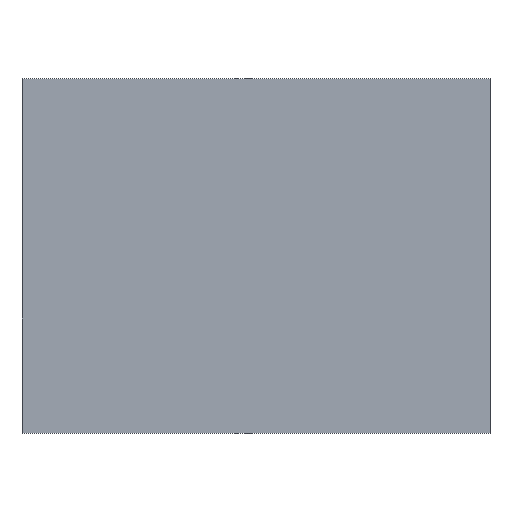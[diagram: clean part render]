
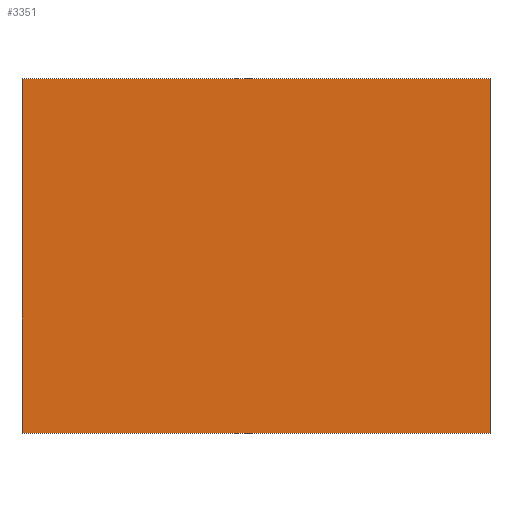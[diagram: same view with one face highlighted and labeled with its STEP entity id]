
A CAD part, top view. The second image highlights one B-rep face of the part: STEP entity #3351.
In plain terms, the highlighted planar face has unit normal (0, 0, 1).
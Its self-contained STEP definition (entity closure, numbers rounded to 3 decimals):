
#3215=CARTESIAN_POINT('Vertex',(103.,78.,26.)) ;
#3229=CARTESIAN_POINT('Vertex',(-103.,78.,26.)) ;
#3232=CARTESIAN_POINT('Line Origine',(0.,78.,26.)) ;
#3260=CARTESIAN_POINT('Vertex',(-103.,-78.,26.)) ;
#3263=CARTESIAN_POINT('Line Origine',(-103.,0.,26.)) ;
#3291=CARTESIAN_POINT('Vertex',(103.,-78.,26.)) ;
#3294=CARTESIAN_POINT('Line Origine',(0.,-78.,26.)) ;
#3316=CARTESIAN_POINT('Line Origine',(103.,0.,26.)) ;
#3340=CARTESIAN_POINT('Axis2P3D Location',(0.,0.,26.)) ;
#3233=DIRECTION('Vector Direction',(1.,0.,0.)) ;
#3264=DIRECTION('Vector Direction',(0.,1.,0.)) ;
#3295=DIRECTION('Vector Direction',(-1.,0.,0.)) ;
#3317=DIRECTION('Vector Direction',(0.,-1.,0.)) ;
#3341=DIRECTION('Axis2P3D Direction',(0.,0.,1.)) ;
#3342=DIRECTION('Axis2P3D XDirection',(1.,0.,0.)) ;
#3343=AXIS2_PLACEMENT_3D('Plane Axis2P3D',#3340,#3341,#3342) ;
#3346=ORIENTED_EDGE('',*,*,#3236,.T.) ;
#3347=ORIENTED_EDGE('',*,*,#3267,.T.) ;
#3348=ORIENTED_EDGE('',*,*,#3298,.T.) ;
#3349=ORIENTED_EDGE('',*,*,#3320,.T.) ;
#3234=VECTOR('Line Direction',#3233,1.) ;
#3265=VECTOR('Line Direction',#3264,1.) ;
#3296=VECTOR('Line Direction',#3295,1.) ;
#3318=VECTOR('Line Direction',#3317,1.) ;
#3351=ADVANCED_FACE('cavity',(#3350),#3344,.T.) ;
#3236=EDGE_CURVE('',#3216,#3230,#3235,.F.) ;
#3267=EDGE_CURVE('',#3230,#3261,#3266,.F.) ;
#3298=EDGE_CURVE('',#3261,#3292,#3297,.F.) ;
#3320=EDGE_CURVE('',#3292,#3216,#3319,.F.) ;
#3345=EDGE_LOOP('',(#3346,#3347,#3348,#3349)) ;
#3350=FACE_OUTER_BOUND('',#3345,.T.) ;
#3235=LINE('Line',#3232,#3234) ;
#3266=LINE('Line',#3263,#3265) ;
#3297=LINE('Line',#3294,#3296) ;
#3319=LINE('Line',#3316,#3318) ;
#3344=PLANE('Plane',#3343) ;
#3216=VERTEX_POINT('',#3215) ;
#3230=VERTEX_POINT('',#3229) ;
#3261=VERTEX_POINT('',#3260) ;
#3292=VERTEX_POINT('',#3291) ;
